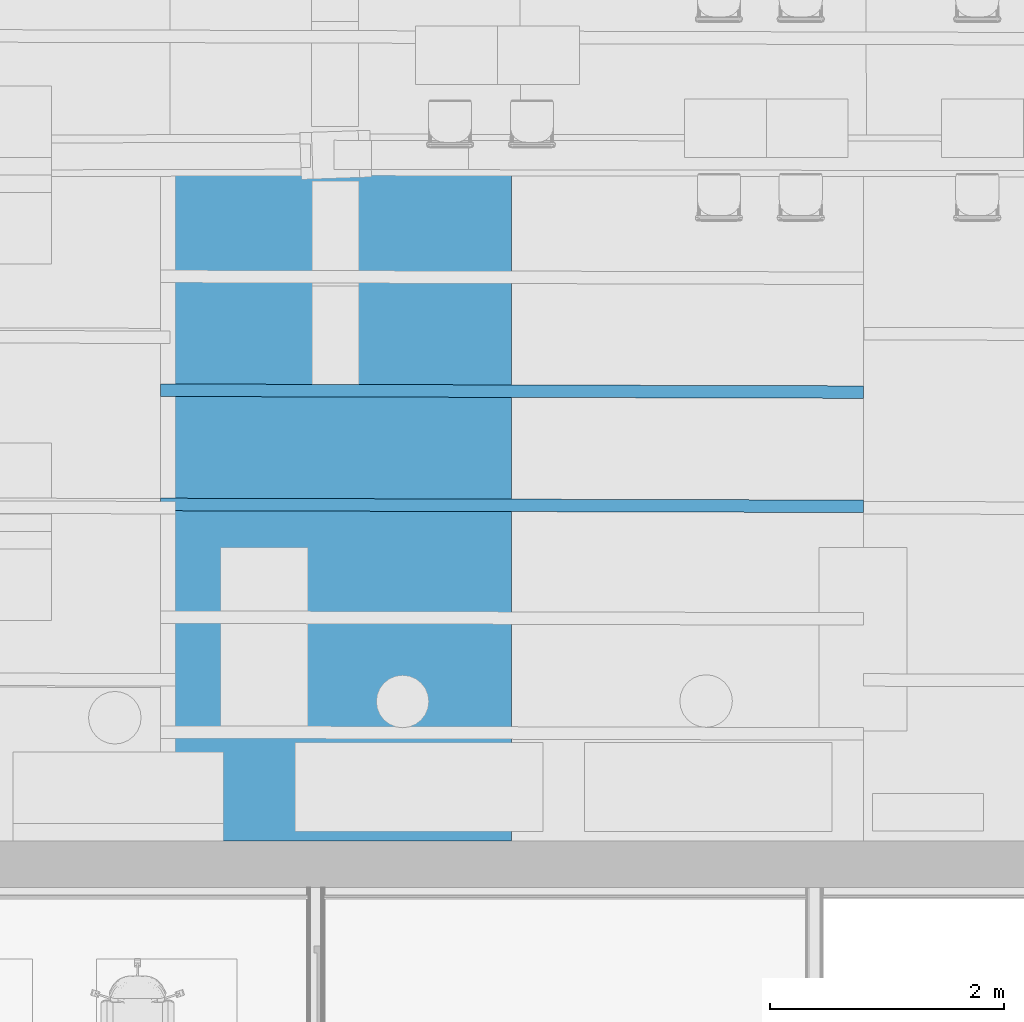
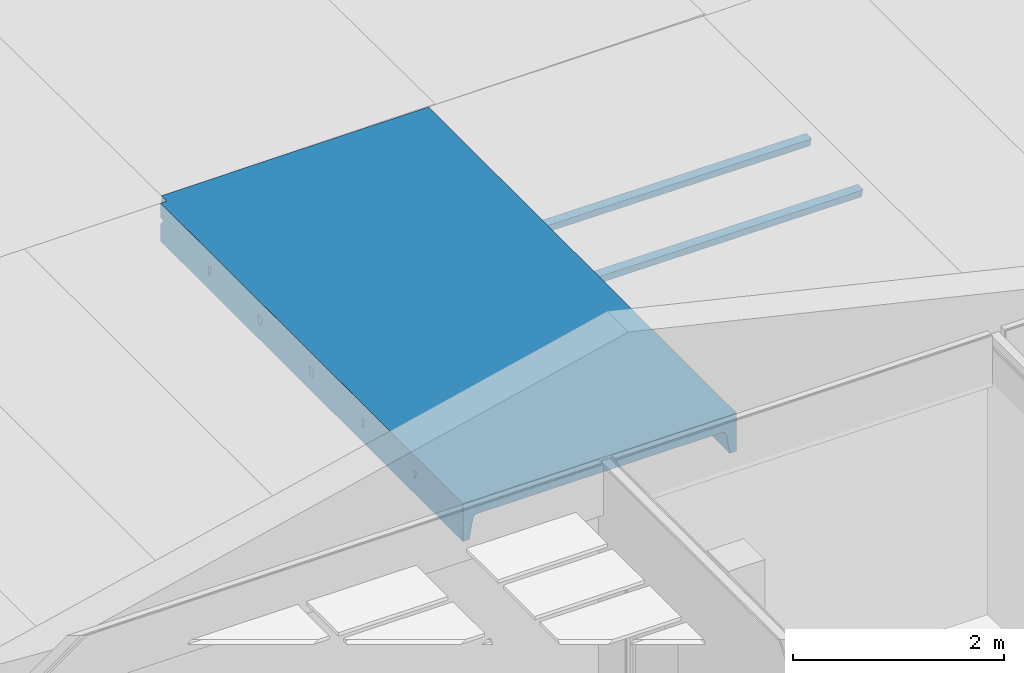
# One storey, part 19 of 153: 3 beams.
"""IFC2X3 building model written with IfcOpenShell, lengths in millimetres."""

from ifc_helpers import new_model, entity, si_unit, converted_unit, derived_unit, money_unit, direction, frame, origin_with_axes, place, context, subcontext, project, spatial, faceted_brep, material, type_object, element, save


model = new_model("IFC2X3")

# Units and contexts
model_context = context("Model", 3, precision=0.01, world=origin_with_axes(), true_north=direction((0.0, 1.0)))
body_context = subcontext(model_context, "Body", "Model", "MODEL_VIEW")
ifc_project = project(units=[si_unit("LENGTHUNIT", "METRE", prefix="MILLI"), si_unit("AREAUNIT", "SQUARE_METRE"), si_unit("VOLUMEUNIT", "CUBIC_METRE"), converted_unit("PLANEANGLEUNIT", "DEGREE", entity("IfcPlaneAngleMeasure", 0.0174532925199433), si_unit("PLANEANGLEUNIT", "RADIAN"), dimensions=[0, 0, 0, 0, 0, 0, 0]), money_unit("EUR"), converted_unit("TIMEUNIT", "Year", entity("IfcTimeMeasure", 31557600.0), si_unit("TIMEUNIT", "SECOND"), dimensions=[0, 0, 1, 0, 0, 0, 0]), si_unit("MASSUNIT", "GRAM", prefix="KILO"), si_unit("THERMODYNAMICTEMPERATUREUNIT", "DEGREE_CELSIUS"), si_unit("LUMINOUSINTENSITYUNIT", "LUMEN"), si_unit("ENERGYUNIT", "JOULE", prefix="MEGA"), derived_unit("THERMALCONDUCTANCEUNIT", [(si_unit("POWERUNIT", "WATT"), 1), (si_unit("LENGTHUNIT", "METRE"), -1), (si_unit("THERMODYNAMICTEMPERATUREUNIT", "KELVIN"), -1)]), derived_unit("SPECIFICHEATCAPACITYUNIT", [(si_unit("ENERGYUNIT", "JOULE"), 1), (si_unit("MASSUNIT", "GRAM", prefix="KILO"), -1), (si_unit("THERMODYNAMICTEMPERATUREUNIT", "KELVIN"), -1)]), derived_unit("MASSDENSITYUNIT", [(si_unit("MASSUNIT", "GRAM", prefix="KILO"), 1), (si_unit("VOLUMEUNIT", "CUBIC_METRE"), -1)])], contexts=[model_context])

# Site, building, storey
site_placement = place(None, frame((0.0, 0.0, 8650.0), z_axis=(0.0, 0.0, 1.0), x_axis=(1.0, 0.0, 0.0)))
site = spatial("IfcSite", under=ifc_project, at=site_placement, Name="43301:001:0844", CompositionType="ELEMENT")
building_placement = place(site_placement, origin_with_axes())
building = spatial("IfcBuilding", under=site, at=building_placement, Name="Kuressaare Ametikooli tuulikute mehaanikute õppekorpus", CompositionType="ELEMENT")
storey_placement = place(building_placement, frame((0.0, 0.0, 4100.0), z_axis=(0.0, 0.0, 1.0), x_axis=(1.0, 0.0, 0.0)))
storey = spatial("IfcBuildingStorey", under=building, at=storey_placement, Name="2.korrus", CompositionType="ELEMENT", Elevation=4100.0)

# Beams
ifc_material = material(Name="GENEERILINE - KONSTRUKTRIOON")
beam_type_1 = type_object("IfcBeamType", Name="Precast Double Tee 4 3000 x 440", PredefinedType="NOTDEFINED")
beam_1_placement = place(storey_placement, frame((95765.87775377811, 32034.33665916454, 2975.000000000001), z_axis=(0.0, 0.0, 1.0), x_axis=(-1.0, 0.0, 0.0)))
element("IfcBeam", 1, at=beam_1_placement, inside=storey, type_object=beam_type_1, material=ifc_material, context=body_context, shape_type="Brep", body=[
    faceted_brep([(1430.000000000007, 5851.267735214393, -440.0001340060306), (1430.000000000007, 108.6186557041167, -440.0001340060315), (1429.090390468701, 108.6161535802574, -435.0000000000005), (1429.090390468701, 98.01983841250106, -435.0000000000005), (1396.97058901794, 97.90467082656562, -258.4370837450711), (1391.121582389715, 117.1051804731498, -226.2850273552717), (1388.184278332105, 129.537764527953, -210.1386333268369), (1388.184278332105, 988.409629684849, -210.1386333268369), (1399.404044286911, 1002.986194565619, -271.8138152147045), (1399.404044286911, 1042.986337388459, -271.8138152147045), (1388.184278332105, 1057.622222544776, -210.1386333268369), (1388.184278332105, 1962.171119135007, -210.1386333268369), (1399.404044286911, 1976.747684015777, -271.8138152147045), (1399.404044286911, 2016.747826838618, -271.8138152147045), (1388.184278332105, 2031.383711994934, -210.1386333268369), (1388.184278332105, 2939.070865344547, -210.1386333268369), (1399.404044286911, 2953.647430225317, -271.8138152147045), (1399.404044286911, 2993.647573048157, -271.8138152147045), (1388.184278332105, 3008.283458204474, -210.1386333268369), (1388.184278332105, 3902.805070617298, -210.1386333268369), (1399.404044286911, 3917.381635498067, -271.8138152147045), (1399.404044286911, 3957.381778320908, -271.8138152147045), (1388.184278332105, 3972.017663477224, -210.1386333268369), (1388.184278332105, 4886.002914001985, -210.1386333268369), (1399.404044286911, 4900.579478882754, -271.8138152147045), (1399.404044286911, 4940.579621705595, -271.8138152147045), (1388.184278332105, 4955.215506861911, -210.1386333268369), (1388.184278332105, 5851.267735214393, -210.1386333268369), (1500.0, 108.8112110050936, -440.0001340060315), (1500.0, 5851.267735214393, -440.0001340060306), (1500.0, 108.811211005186, -435.0000000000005), (1430.916746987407, 108.6211774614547, -435.0000000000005), (1430.979767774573, 98.02664458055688, -435.0000000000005), (1430.979764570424, 98.02718323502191, -258.4370837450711), (1430.916746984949, 108.6211783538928, -240.7160622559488), (1500.000000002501, 109.0321143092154, -240.444958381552), (1500.0, 117.4973968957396, -226.2850273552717), (1383.219909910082, 139.9426567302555, -196.6139201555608), (1500.0, 140.3633376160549, -196.6139201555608), (1382.086528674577, 984.491594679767, -193.5261847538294), (1382.086528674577, 142.9587879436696, -193.5261847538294), (1373.774795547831, 982.3136898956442, -184.2363394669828), (1499.891129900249, 981.9766699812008, -184.2363394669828), (1499.946555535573, 1002.717515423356, -271.8138152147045), (1500.0, 1022.7169862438, -271.8138152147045), (1500.0, 1042.71751542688, -271.8138152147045), (1382.086528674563, 1061.572673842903, -193.5261847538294), (1500.0, 1063.457547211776, -184.236534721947), (1373.774970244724, 1063.794857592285, -184.236534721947), (1382.086528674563, 1958.253084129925, -193.5261847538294), (1373.774795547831, 1956.075179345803, -184.2363394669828), (1499.891129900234, 1955.738159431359, -184.2363394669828), (1499.946555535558, 1976.479004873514, -271.8138152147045), (1500.0, 2016.479004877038, -271.8138152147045), (1500.0, 1996.47847569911, -271.8138152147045), (1373.774970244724, 2037.556347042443, -184.236534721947), (1382.086528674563, 2035.334163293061, -193.5261847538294), (1500.0, 2037.219036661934, -184.236534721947), (1382.086528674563, 2935.152830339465, -193.5261847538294), (1373.774795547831, 2932.974925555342, -184.2363394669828), (1499.891129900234, 2932.637905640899, -184.2363394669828), (1499.946555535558, 2953.378751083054, -271.8138152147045), (1500.0, 2973.37822190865, -271.8138152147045), (1500.0, 2993.378751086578, -271.8138152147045), (1500.0, 3014.118782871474, -184.236534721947), (1373.774970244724, 3014.456093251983, -184.236534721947), (1382.086528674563, 3012.233909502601, -193.5261847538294), (1382.086528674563, 3898.887035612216, -193.5261847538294), (1373.774795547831, 3896.709130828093, -184.2363394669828), (1499.891129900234, 3896.37211091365, -184.2363394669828), (1499.946555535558, 3917.112956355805, -271.8138152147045), (1500.0, 3937.112427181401, -271.8138152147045), (1500.0, 3957.112956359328, -271.8138152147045), (1500.0, 3977.852988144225, -184.236534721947), (1373.774970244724, 3978.190298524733, -184.236534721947), (1382.086528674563, 3975.968114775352, -193.5261847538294), (1382.086528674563, 4882.084878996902, -193.5261847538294), (1499.946555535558, 4900.310799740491, -271.8138152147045), (1373.774795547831, 4879.906974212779, -184.2363394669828), (1499.891129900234, 4879.569954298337, -184.2363394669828), (1500.0, 4920.31027056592, -271.8138152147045), (1500.0, 4940.310799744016, -271.8138152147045), (1500.0, 4961.050831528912, -184.236534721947), (1373.774970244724, 4961.38814190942, -184.236534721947), (1382.086528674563, 4959.165958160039, -193.5261847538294), (1382.086528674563, 5851.267735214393, -193.5261847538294), (1370.286968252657, 5851.267735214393, -180.3380699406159), (1354.45241394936, 5851.267735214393, -172.4372542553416), (1336.819669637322, 5851.267735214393, -170.9398142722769), (-1334.253143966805, 5851.267735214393, -169.8234995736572), (-1354.310838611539, 5851.267735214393, -173.505793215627), (-1371.752641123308, 5851.267735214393, -184.0724353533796), (-1384.30381979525, 5851.267735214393, -200.145341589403), (-1390.327470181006, 5851.267735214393, -219.628309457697), (-1424.999996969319, 5851.267735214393, -440.0001340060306), (-1500.0, 5851.267735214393, -440.0001340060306), (-1500.0, 5851.267735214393, 0.0), (1500.0, 5851.267735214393, 0.0), (1500.0, 109.032113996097, 0.0), (1499.999999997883, 109.0321143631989, -169.834743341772), (1500.0, 166.5569180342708, -169.834743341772), (1500.0, 109.0321141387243, -435.0000000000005), (1500.0, 4973.824337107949, -169.8663369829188), (1500.0, 4965.625461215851, -175.4406717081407), (1500.0, 4920.310270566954, -169.8663369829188), (1500.0, 3982.427617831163, -175.4406717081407), (1500.0, 3937.112427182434, -169.8663369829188), (1500.0, 3990.626493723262, -169.8663369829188), (1500.0, 2973.378221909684, -169.8663369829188), (1500.0, 3026.892288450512, -169.8663369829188), (1500.0, 3018.693412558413, -175.4406717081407), (1500.0, 1996.478475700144, -169.8663369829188), (1500.0, 2049.992542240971, -169.8663369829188), (1500.0, 2041.793666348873, -175.4406717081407), (1500.0, 1022.716986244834, -169.8663369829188), (1500.0, 1076.231052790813, -169.8663369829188), (1500.0, 1068.032176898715, -175.4406717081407), (1500.0, 1467.114921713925, -169.8663369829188), (1500.0, 1520.628988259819, -169.8663369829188), (1500.0, 1520.628988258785, -271.8138152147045), (1500.0, 1500.629374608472, -271.8138152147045), (1500.0, 1479.888381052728, -184.2363394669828), (1500.0, 1475.313730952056, -175.4405967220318), (2.359024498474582, 161.1619150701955, -169.834743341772), (2.360953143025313, 160.6265275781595, -170.382107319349), (1336.819669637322, 164.888182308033, -170.9398142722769), (1354.45241394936, 163.4870067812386, -172.4372542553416), (1370.286968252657, 155.8160043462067, -180.3380699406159), (1370.286968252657, 980.2955273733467, -180.3380699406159), (1360.471613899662, 977.7745898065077, -175.4405967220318), (1499.878905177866, 977.4020525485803, -175.4405967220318), (1499.856995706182, 969.2033018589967, -169.8663369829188), (1360.471764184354, 1068.405037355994, -175.4406717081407), (1370.286968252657, 1065.831726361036, -180.3380699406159), (1370.286968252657, 1954.057016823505, -180.3380699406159), (1360.471613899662, 1951.536079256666, -175.4405967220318), (1499.878905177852, 1951.163541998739, -175.4405967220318), (1499.856995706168, 1942.964791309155, -169.8663369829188), (1370.286968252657, 2039.593215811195, -180.3380699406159), (1370.286968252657, 2930.956763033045, -180.3380699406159), (1360.471764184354, 2042.166526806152, -175.4406717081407), (1360.471613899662, 2928.435825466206, -175.4405967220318), (1499.878905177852, 2928.063288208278, -175.4405967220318), (1499.856995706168, 2919.864537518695, -169.8663369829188), (1360.471764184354, 3019.066273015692, -175.4406717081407), (1370.286968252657, 3016.492962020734, -180.3380699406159), (1370.286968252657, 3894.690968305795, -180.3380699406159), (1499.878905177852, 3891.797493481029, -175.4405967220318), (1360.471613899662, 3892.170030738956, -175.4405967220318), (1499.856995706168, 3883.598742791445, -169.8663369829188), (1360.471764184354, 3982.800478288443, -175.4406717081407), (1370.286968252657, 3980.227167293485, -180.3380699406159), (1370.286968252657, 4877.888811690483, -180.3380699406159), (1360.471613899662, 4875.367874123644, -175.4405967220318), (1499.878905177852, 4874.995336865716, -175.4405967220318), (1499.856995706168, 4866.796586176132, -169.8663369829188), (1370.286968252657, 4963.425010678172, -180.3380699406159), (1360.471764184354, 4965.99832167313, -175.4406717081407), (1354.45241394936, 4970.431911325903, -172.4372542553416), (1336.819669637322, 4972.681504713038, -170.9398142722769), (1336.819669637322, 2921.879127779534, -170.9398142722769), (1336.819669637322, 2048.849709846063, -170.9398142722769), (-1231.753517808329, 2057.292590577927, -169.8663369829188), (-1231.753517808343, 1950.264457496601, -169.8663369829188), (1336.819669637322, 1944.979381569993, -170.9398142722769), (1336.819669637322, 1075.088220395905, -170.9398142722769), (-1231.753517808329, 1083.531101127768, -169.8663369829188), (-1231.753517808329, 976.502968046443, -169.8663369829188), (1336.819669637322, 971.2178921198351, -170.9398142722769), (2.361121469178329, 160.5798006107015, -170.3821074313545), (-1334.253144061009, 163.3281601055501, -169.8235593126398), (-1231.753517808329, 4981.1243854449, -169.8663369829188), (-1231.753517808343, 4874.096252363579, -169.8663369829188), (1336.819669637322, 4868.811176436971, -170.9398142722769), (1336.819669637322, 3989.48366132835, -170.9398142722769), (-1231.753517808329, 3997.926542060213, -169.8663369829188), (-1231.753517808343, 3890.898408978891, -169.8663369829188), (1336.819669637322, 3885.613333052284, -170.9398142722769), (1336.819669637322, 3025.7494560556, -170.9398142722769), (-1231.753517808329, 3034.192336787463, -169.8663369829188), (-1231.753517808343, 2927.164203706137, -169.8663369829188), (-1354.310838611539, 159.8612866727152, -173.505793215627), (-1354.310838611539, 982.183512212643, -173.505793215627), (-1334.486482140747, 976.7775007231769, -169.8663369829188), (-1334.486482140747, 1083.805633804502, -169.8663369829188), (-1354.310838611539, 1078.50560382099, -173.505793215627), (-1354.310838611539, 1955.945001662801, -173.505793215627), (-1334.486482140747, 1950.538990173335, -169.8663369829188), (-1334.486482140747, 2057.567123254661, -169.8663369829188), (-1354.310838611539, 2052.267093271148, -173.505793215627), (-1354.310838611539, 2932.844747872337, -173.505793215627), (-1334.486482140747, 2927.438736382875, -169.8663369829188), (-1334.486482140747, 3034.466869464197, -169.8663369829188), (-1354.310838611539, 3029.166839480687, -173.505793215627), (-1354.310838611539, 3896.578953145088, -173.505793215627), (-1334.486482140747, 3891.172941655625, -169.8663369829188), (-1334.486482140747, 3998.201074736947, -169.8663369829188), (-1354.310838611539, 3992.901044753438, -173.505793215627), (-1354.310838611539, 4879.776796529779, -173.505793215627), (-1334.486482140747, 4874.370785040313, -169.8663369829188), (-1334.486482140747, 4981.398918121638, -169.8663369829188), (-1354.310838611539, 4976.098888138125, -173.505793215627), (-1371.752641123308, 4968.810344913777, -184.0724353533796), (-1357.504641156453, 4973.261553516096, -175.4406717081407), (-1384.30381979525, 4964.991019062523, -200.145341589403), (-1371.880784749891, 4968.725341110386, -184.236534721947), (-1390.327470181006, 4960.393163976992, -219.628309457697), (-1390.327470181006, 2948.743307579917, -219.628309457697), (-1390.327470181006, 2036.561369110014, -219.628309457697), (-1398.538153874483, 2024.224750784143, -271.8138152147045), (-1398.538153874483, 1984.224607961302, -271.8138152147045), (-1390.327470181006, 1971.843561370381, -219.628309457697), (-1390.327470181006, 1062.799879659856, -219.628309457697), (-1398.538153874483, 1050.463261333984, -271.8138152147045), (-1398.538153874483, 1010.463118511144, -271.8138152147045), (-1390.327470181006, 998.0820719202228, -219.628309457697), (-1390.327470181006, 122.9047056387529, -219.628309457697), (-1390.759132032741, 120.7868197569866, -222.3718680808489), (-1397.848817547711, 95.20655659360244, -267.4325278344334), (-1424.999996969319, 95.25107756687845, -440.0001340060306), (-1398.538153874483, 4948.05654565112, -271.8138152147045), (-1398.538153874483, 4908.05640282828, -271.8138152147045), (-1390.327470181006, 4895.675356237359, -219.628309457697), (-1390.327470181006, 3977.195320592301, -219.628309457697), (-1398.538153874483, 3964.858702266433, -271.8138152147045), (-1398.538153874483, 3924.858559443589, -271.8138152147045), (-1390.327470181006, 3912.477512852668, -219.628309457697), (-1390.327470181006, 3013.461115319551, -219.628309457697), (-1398.538153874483, 3001.124496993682, -271.8138152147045), (-1398.538153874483, 2961.124354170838, -271.8138152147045), (-1500.0, 95.37550191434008, -440.0001340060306), (-1500.0, 95.37602450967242, -267.4325278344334), (-1500.0, 120.9680493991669, -222.3718680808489), (-1500.0, 152.6405697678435, -181.3564172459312), (-1500.0, 163.6031326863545, -169.8235593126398), (-1500.0, 0.0, -169.8235593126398), (-1500.0, 0.0, 0.0), (-1500.0, 4969.067713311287, -184.236534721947), (-1500.0, 4973.642342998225, -175.4406717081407), (-1500.0, 4981.841218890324, -169.8663369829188), (-1500.0, 4874.813085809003, -169.8663369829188), (-1500.0, 4883.011895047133, -175.4405967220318), (-1500.0, 4887.586545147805, -184.2363394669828), (-1500.0, 4908.327538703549, -271.8138152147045), (-1500.0, 4948.327681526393, -271.8138152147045), (-1500.0, 3990.444499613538, -175.4406717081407), (-1500.0, 3998.643375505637, -169.8663369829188), (-1500.0, 3891.615242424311, -169.8663369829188), (-1500.0, 3899.814051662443, -175.4405967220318), (-1500.0, 3904.388701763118, -184.2363394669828), (-1500.0, 3925.129695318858, -271.8138152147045), (-1500.0, 3965.129838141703, -271.8138152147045), (-1500.0, 3985.869869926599, -184.236534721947), (-1500.0, 3034.909170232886, -169.8663369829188), (-1500.0, 2927.881037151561, -169.8663369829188), (-1500.0, 2936.079846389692, -175.4405967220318), (-1500.0, 2940.654496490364, -184.2363394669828), (-1500.0, 2961.395490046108, -271.8138152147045), (-1500.0, 3001.395632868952, -271.8138152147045), (-1500.0, 3022.135664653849, -184.236534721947), (-1500.0, 3026.710294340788, -175.4406717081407), (-1500.0, 1950.981290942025, -169.8663369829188), (-1500.0, 1959.180100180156, -175.4405967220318), (-1500.0, 1963.754750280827, -184.2363394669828), (-1500.0, 1984.495743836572, -271.8138152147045), (-1500.0, 2024.495886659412, -271.8138152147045), (-1500.0, 2045.235918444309, -184.236534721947), (-1500.0, 2049.810548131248, -175.4406717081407), (-1500.0, 2058.009424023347, -169.8663369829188), (-1500.0, 985.4186107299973, -175.4405967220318), (-1500.0, 989.9932608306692, -184.2363394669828), (-1500.0, 1010.734254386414, -271.8138152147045), (-1500.0, 1050.734397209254, -271.8138152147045), (-1500.0, 1071.474428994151, -184.236534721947), (-1500.0, 1076.049058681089, -175.4406717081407), (-1500.0, 1084.247934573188, -169.8663369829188), (-1500.0, 977.2198014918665, -169.8663369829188), (301.4986947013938, 0.0, 0.0), (1431.522887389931, 6.721863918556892, 0.0), (1430.916746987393, 108.6211774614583, 0.0), (1430.916746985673, 108.6211780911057, -169.834743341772), (1431.52288739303, 6.721863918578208, -169.834743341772), (301.498694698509, 0.0, -169.834743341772), (3.027433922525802, 0.0, -169.834743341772), (3.29469500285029, 161.0985489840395, -169.834743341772), (2.359247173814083, 161.100100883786, -169.834743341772), (1354.45241394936, 3987.234067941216, -172.4372542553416), (1354.45241394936, 3023.499862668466, -172.4372542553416), (1354.45241394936, 2046.600116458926, -172.4372542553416), (1354.45241394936, 1072.838627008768, -172.4372542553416), (1499.856995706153, 1467.11530386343, -169.8663369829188), (1499.878905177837, 1475.314054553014, -175.4405967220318), (1499.89112990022, 1479.888671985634, -184.2363394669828), (1499.946555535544, 1500.62951742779, -271.8138152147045), (1354.45241394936, 973.3732574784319, -172.4372542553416), (1354.45241394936, 1947.13474692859, -172.4372542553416), (1354.45241394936, 2924.03449313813, -172.4372542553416), (1354.45241394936, 3887.76869841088, -172.4372542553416), (1354.45241394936, 4870.966541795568, -172.4372542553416), (3.294712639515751, 161.109179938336, -169.8235593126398), (-1367.269452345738, 152.4203709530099, -181.3564172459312), (-1371.752641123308, 150.330473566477, -184.0724353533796), (-1371.752641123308, 989.5652999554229, -184.0724353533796), (-1357.504517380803, 985.0378209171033, -175.4405967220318), (-1357.504641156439, 1075.66826919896, -175.4406717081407), (-1371.752641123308, 1071.217060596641, -184.0724353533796), (-1371.752641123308, 1963.326789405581, -184.0724353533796), (-1357.504517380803, 1958.799310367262, -175.4405967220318), (-1357.504641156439, 2049.429758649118, -175.4406717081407), (-1371.752641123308, 2044.9785500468, -184.0724353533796), (-1371.752641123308, 2940.226535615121, -184.0724353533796), (-1357.504517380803, 2935.699056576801, -175.4405967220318), (-1357.504641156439, 3026.329504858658, -175.4406717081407), (-1371.752641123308, 3021.878296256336, -184.0724353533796), (-1371.752641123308, 3903.960740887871, -184.0724353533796), (-1357.504517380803, 3899.433261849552, -175.4405967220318), (-1357.504641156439, 3990.063710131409, -175.4406717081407), (-1371.752641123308, 3985.612501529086, -184.0724353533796), (-1371.752641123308, 4887.158584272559, -184.0724353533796), (-1357.504517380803, 4882.631105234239, -175.4405967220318), (-1384.30381979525, 2944.113054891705, -200.145341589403), (-1384.30381979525, 2041.15922419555, -200.145341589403), (-1371.880784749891, 2044.893546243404, -184.236534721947), (-1371.880632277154, 1963.412377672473, -184.2363394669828), (-1384.30381979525, 1967.213308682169, -200.145341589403), (-1384.30381979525, 1067.397734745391, -200.145341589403), (-1371.880784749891, 1071.132056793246, -184.236534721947), (-1371.880632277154, 989.6508882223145, -184.2363394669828), (-1384.30381979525, 993.4518192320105, -200.145341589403), (-1384.30381979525, 137.9396451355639, -200.145341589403), (-1384.30381979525, 4891.045103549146, -200.145341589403), (-1371.880632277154, 4887.24417253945, -184.2363394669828), (-1384.30381979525, 3981.793175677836, -200.145341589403), (-1371.880784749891, 3985.527497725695, -184.236534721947), (-1371.880632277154, 3904.046329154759, -184.2363394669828), (-1384.30381979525, 3907.847260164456, -200.145341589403), (-1384.30381979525, 3018.058970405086, -200.145341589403), (-1371.880784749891, 3021.793292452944, -184.236534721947), (-1371.880632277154, 2940.312123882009, -184.2363394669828), (3.027433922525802, 0.0, -169.8235593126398)], [[[0, 1, 2, 3, 4, 5, 6, 7, 8, 9, 10, 11, 12, 13, 14, 15, 16, 17, 18, 19, 20, 21, 22, 23, 24, 25, 26, 27]], [[28, 1, 0, 29]], [[30, 31, 2, 1, 28]], [[31, 32, 3, 2]], [[4, 3, 32, 33]], [[4, 33, 34, 35, 36, 5]], [[37, 6, 5, 36, 38]], [[39, 7, 6, 37, 40]], [[41, 42, 43, 8, 7, 39]], [[9, 8, 43, 44, 45]], [[46, 10, 9, 45, 47, 48]], [[11, 10, 46, 49]], [[49, 50, 51, 52, 12, 11]], [[53, 13, 12, 52, 54]], [[55, 56, 14, 13, 53, 57]], [[58, 15, 14, 56]], [[15, 58, 59, 60, 61, 16]], [[62, 63, 17, 16, 61]], [[64, 65, 66, 18, 17, 63]], [[66, 67, 19, 18]], [[20, 19, 67, 68, 69, 70]], [[70, 71, 72, 21, 20]], [[72, 73, 74, 75, 22, 21]], [[22, 75, 76, 23]], [[77, 24, 23, 76, 78, 79]], [[24, 77, 80, 81, 25]], [[25, 81, 82, 83, 84, 26]], [[27, 26, 84, 85]], [[0, 27, 85, 86, 87, 88, 89, 90, 91, 92, 93, 94, 95, 96, 97, 29]], [[29, 97, 98, 99, 100, 38, 36, 35, 101, 30, 28], [102, 103, 82, 81, 80, 104], [105, 73, 72, 71, 106, 107], [64, 63, 62, 108, 109, 110], [53, 54, 111, 112, 113, 57], [44, 114, 115, 116, 47, 45], [117, 118, 119, 120, 121, 122]], [[101, 31, 30]], [[33, 32, 31, 34]], [[31, 101, 35, 34]], [[123, 124, 125, 126, 127, 40, 37, 38, 100]], [[41, 39, 40, 127, 128]], [[128, 129, 130, 42, 41]], [[44, 43, 42, 130, 131, 114]], [[132, 133, 48, 47, 116]], [[133, 134, 50, 49, 46, 48]], [[50, 134, 135, 136, 51]], [[111, 54, 52, 51, 136, 137]], [[55, 138, 139, 59, 58, 56]], [[113, 140, 138, 55, 57]], [[60, 59, 139, 141, 142]], [[143, 108, 62, 61, 60, 142]], [[64, 110, 144, 145, 65]], [[66, 65, 145, 146, 68, 67]], [[147, 69, 68, 146, 148]], [[147, 149, 106, 71, 70, 69]], [[74, 73, 105, 150, 151]], [[76, 75, 74, 151, 152, 78]], [[153, 154, 79, 78, 152]], [[79, 154, 155, 104, 80, 77]], [[156, 83, 82, 103, 157]], [[156, 86, 85, 84, 83]], [[158, 87, 86, 156, 157]], [[87, 158, 159, 88]], [[160, 161, 162, 163, 164, 165, 166, 167, 168, 125, 124, 169, 170, 89, 88, 159, 171, 172, 173, 174, 175, 176, 177, 178, 179, 180]], [[89, 170, 181, 182, 183, 184, 185, 186, 187, 188, 189, 190, 191, 192, 193, 194, 195, 196, 197, 198, 199, 200, 201, 90]], [[202, 91, 90, 201, 203]], [[204, 92, 91, 202, 205]], [[92, 204, 206, 93]], [[207, 208, 209, 210, 211, 212, 213, 214, 215, 216, 217, 218, 219, 94, 93, 206, 220, 221, 222, 223, 224, 225, 226, 227, 228, 229]], [[230, 95, 94, 219]], [[231, 232, 233, 234, 235, 236, 96, 95, 230], [237, 238, 239, 240, 241, 242, 243, 244], [245, 246, 247, 248, 249, 250, 251, 252], [253, 254, 255, 256, 257, 258, 259, 260], [261, 262, 263, 264, 265, 266, 267, 268], [269, 270, 271, 272, 273, 274, 275, 276]], [[277, 278, 279, 98, 97, 96, 236]], [[280, 99, 98, 279]], [[100, 99, 280, 281, 282, 283, 284, 285, 123]], [[157, 103, 102, 171, 159, 158]], [[171, 102, 104, 155, 172]], [[107, 106, 149, 176, 175]], [[105, 107, 175, 174, 286, 150]], [[108, 143, 180, 179, 109]], [[109, 179, 178, 287, 144, 110]], [[137, 163, 162, 112, 111]], [[162, 161, 288, 140, 113, 112]], [[167, 166, 115, 114, 131]], [[165, 289, 132, 116, 115, 166]], [[290, 118, 117]], [[290, 291, 292, 293, 119, 118]], [[293, 120, 119]], [[121, 120, 293, 292]], [[122, 121, 292, 291]], [[117, 122, 291, 290]], [[124, 123, 285, 169]], [[125, 168, 294, 126]], [[129, 128, 127, 126, 294]], [[167, 131, 130, 129, 294, 168]], [[289, 295, 135, 134, 133, 132]], [[164, 163, 137, 136, 135, 295]], [[140, 288, 296, 141, 139, 138]], [[296, 160, 180, 143, 142, 141]], [[145, 144, 287, 297, 148, 146]], [[148, 297, 177, 176, 149, 147]], [[152, 151, 150, 286, 298, 153]], [[154, 153, 298, 173, 172, 155]], [[160, 296, 288, 161]], [[295, 289, 165, 164]], [[285, 284, 299, 170, 169]], [[286, 174, 173, 298]], [[178, 177, 297, 287]], [[170, 234, 233, 300, 181]], [[182, 181, 300, 301, 302, 303]], [[269, 276, 183, 182, 303]], [[183, 276, 275, 184]], [[275, 274, 304, 185, 184]], [[305, 306, 307, 186, 185, 304]], [[307, 262, 261, 187, 186]], [[188, 187, 261, 268]], [[188, 268, 267, 308, 189]], [[308, 309, 310, 311, 190, 189]], [[190, 311, 255, 254, 191]], [[253, 192, 191, 254]], [[193, 192, 253, 260, 312]], [[193, 312, 313, 314, 315, 194]], [[195, 194, 315, 248, 247]], [[247, 246, 196, 195]], [[316, 197, 196, 246, 245]], [[198, 197, 316, 317, 318, 319]], [[240, 199, 198, 319, 241]], [[199, 240, 239, 200]], [[238, 203, 201, 200, 239]], [[237, 205, 202, 203, 238]], [[206, 204, 205, 237, 244, 220]], [[207, 320, 321, 208]], [[266, 265, 209, 208, 321, 322]], [[210, 209, 265, 264]], [[264, 263, 323, 324, 211, 210]], [[324, 325, 212, 211]], [[272, 213, 212, 325, 326, 273]], [[213, 272, 271, 214]], [[270, 327, 328, 215, 214, 271]], [[216, 215, 328, 329]], [[216, 329, 301, 300, 233, 232, 217]], [[231, 218, 217, 232]], [[230, 219, 218, 231]], [[220, 244, 243, 221]], [[330, 222, 221, 243, 242, 331]], [[332, 223, 222, 330]], [[332, 333, 252, 251, 224, 223]], [[251, 250, 225, 224]], [[226, 225, 250, 249, 334, 335]], [[227, 226, 335, 336]], [[337, 259, 258, 228, 227, 336]], [[257, 229, 228, 258]], [[229, 257, 256, 338, 320, 207]], [[339, 235, 234, 170, 299]], [[235, 339, 283, 282, 277, 236]], [[241, 319, 318, 331, 242]], [[315, 314, 334, 249, 248]], [[333, 317, 316, 245, 252]], [[310, 338, 256, 255, 311]], [[313, 312, 260, 259, 337]], [[323, 263, 262, 307, 306]], [[308, 267, 266, 322, 309]], [[270, 269, 303, 302, 327]], [[274, 273, 326, 305, 304]], [[277, 282, 281, 278]], [[281, 280, 279, 278]], [[339, 299, 284, 283]], [[327, 302, 301, 329, 328]], [[325, 324, 323, 306, 305, 326]], [[322, 321, 320, 338, 310, 309]], [[313, 337, 336, 335, 334, 314]], [[318, 317, 333, 332, 330, 331]]]),
])
beam_type_2 = type_object("IfcBeamType", Name="Precast Single Tee 2 107 x 102", PredefinedType="NOTDEFINED")
beam_2_placement = place(storey_placement, frame((94265.87775377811, 30037.85818346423, 2805.133663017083), z_axis=(0.0, 0.0, 1.0), x_axis=(-0.002672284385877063, -0.9999964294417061, 0.0)))
element("IfcBeam", 2, at=beam_2_placement, inside=storey, type_object=beam_type_2, material=ifc_material, context=body_context, shape_type="Brep", body=[
    faceted_brep([(45.31502884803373, 0.0, -5.574334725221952), (45.31502884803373, 6011.655918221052, -5.574334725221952), (53.51387546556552, 6011.655918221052, 0.0), (53.51387546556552, 0.0, 0.0), (40.74041549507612, 0.0, -14.37019773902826), (40.74041549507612, 6011.655918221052, -14.37019773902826), (20.00045776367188, 6011.655918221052, -101.9474782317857), (-19.99954223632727, 6011.655918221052, -101.9474782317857), (-40.7404617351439, 6011.655918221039, -14.37000248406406), (-45.31509550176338, 6011.655918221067, -5.574259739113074), (-53.51387546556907, 6011.655918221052, 0.0), (-53.51387546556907, 0.0, 0.0), (-45.31509550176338, 0.0, -5.574259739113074), (-40.7404617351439, 0.0, -14.37000248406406), (-19.99954223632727, 0.0, -101.9474782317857), (20.00045776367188, 0.0, -101.9474782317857)], [[[0, 1, 2, 3]], [[4, 5, 1, 0]], [[2, 1, 5, 6, 7, 8, 9, 10]], [[3, 2, 10, 11]], [[4, 0, 3, 11, 12, 13, 14, 15]], [[15, 6, 5, 4]], [[14, 7, 6, 15]], [[13, 8, 7, 14]], [[12, 9, 8, 13]], [[11, 10, 9, 12]]]),
])
beam_3_placement = place(storey_placement, frame((94265.87775377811, 29060.95843725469, 2805.133663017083), z_axis=(0.0, 0.0, 1.0), x_axis=(-0.002672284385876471, -0.9999964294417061, 0.0)))
element("IfcBeam", 3, at=beam_3_placement, inside=storey, type_object=beam_type_2, material=ifc_material, context=body_context, shape_type="Brep", body=[
    faceted_brep([(45.31502884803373, 0.0, -5.574334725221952), (45.31502884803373, 6011.655918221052, -5.574334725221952), (53.51387546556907, 6011.655918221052, 0.0), (53.51387546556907, 0.0, 0.0), (40.74041549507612, 0.0, -14.37019773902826), (40.74041549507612, 6011.655918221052, -14.37019773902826), (20.00045776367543, 6011.655918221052, -101.9474782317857), (-19.99954223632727, 6011.655918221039, -101.9474782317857), (-40.74046173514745, 6011.655918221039, -14.37000248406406), (-45.31509550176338, 6011.655918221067, -5.574259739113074), (-53.51387546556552, 6011.655918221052, 0.0), (-53.51387546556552, 0.0, 0.0), (-45.31509550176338, 0.0, -5.574259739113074), (-40.74046173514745, 0.0, -14.37000248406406), (-19.99954223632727, 0.0, -101.9474782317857), (20.00045776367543, 0.0, -101.9474782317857)], [[[0, 1, 2, 3]], [[4, 5, 1, 0]], [[2, 1, 5, 6, 7, 8, 9, 10]], [[3, 2, 10, 11]], [[4, 0, 3, 11, 12, 13, 14, 15]], [[15, 6, 5, 4]], [[14, 7, 6, 15]], [[13, 8, 7, 14]], [[12, 9, 8, 13]], [[11, 10, 9, 12]]]),
])

save(model, "model.ifc")
